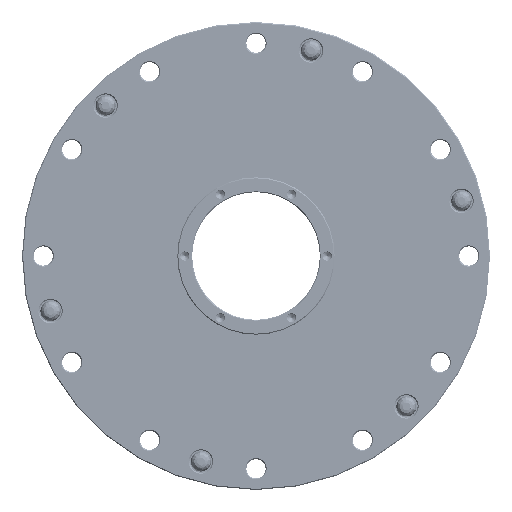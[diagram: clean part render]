
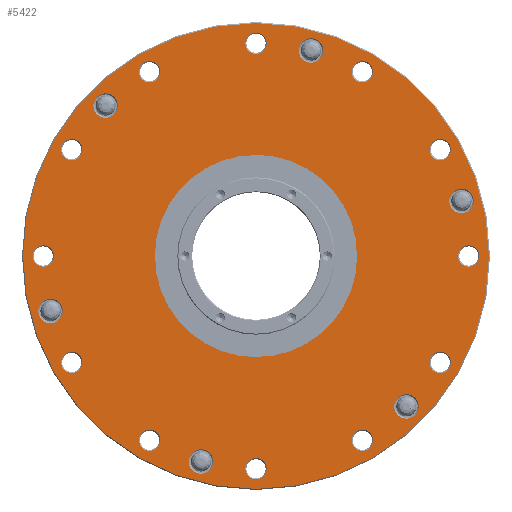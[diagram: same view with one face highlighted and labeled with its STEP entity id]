
A CAD part, left-side view. The second image highlights one B-rep face of the part: STEP entity #5422.
In plain terms, the highlighted planar face has unit normal (-1, 0, 0).
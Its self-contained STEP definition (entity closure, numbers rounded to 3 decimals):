
#5422=ADVANCED_FACE('',(#6850,#6851,#6852,#6853,#6854,#6855,#6856,#6857,
#6858,#6859,#6860,#6861,#6862,#6863,#6864,#6865,#6866,#6867,#6868,#6869),
#5825,.F.);
#5825=PLANE('',#17472);
#6850=FACE_BOUND('',#8612,.T.);
#6851=FACE_BOUND('',#8613,.T.);
#6852=FACE_BOUND('',#8614,.T.);
#6853=FACE_BOUND('',#8615,.T.);
#6854=FACE_BOUND('',#8616,.T.);
#6855=FACE_BOUND('',#8617,.T.);
#6856=FACE_BOUND('',#8618,.T.);
#6857=FACE_BOUND('',#8619,.T.);
#6858=FACE_BOUND('',#8620,.T.);
#6859=FACE_BOUND('',#8621,.T.);
#6860=FACE_BOUND('',#8622,.T.);
#6861=FACE_BOUND('',#8623,.T.);
#6862=FACE_BOUND('',#8624,.T.);
#6863=FACE_BOUND('',#8625,.T.);
#6864=FACE_BOUND('',#8626,.T.);
#6865=FACE_BOUND('',#8627,.T.);
#6866=FACE_BOUND('',#8628,.T.);
#6867=FACE_BOUND('',#8629,.T.);
#6868=FACE_BOUND('',#8630,.T.);
#6869=FACE_BOUND('',#8631,.T.);
#8612=EDGE_LOOP('',(#11875));
#8613=EDGE_LOOP('',(#11876));
#8614=EDGE_LOOP('',(#11877));
#8615=EDGE_LOOP('',(#11878));
#8616=EDGE_LOOP('',(#11879));
#8617=EDGE_LOOP('',(#11880));
#8618=EDGE_LOOP('',(#11881));
#8619=EDGE_LOOP('',(#11882));
#8620=EDGE_LOOP('',(#11883));
#8621=EDGE_LOOP('',(#11884));
#8622=EDGE_LOOP('',(#11885));
#8623=EDGE_LOOP('',(#11886));
#8624=EDGE_LOOP('',(#11887));
#8625=EDGE_LOOP('',(#11888));
#8626=EDGE_LOOP('',(#11889));
#8627=EDGE_LOOP('',(#11890));
#8628=EDGE_LOOP('',(#11891));
#8629=EDGE_LOOP('',(#11892));
#8630=EDGE_LOOP('',(#11893));
#8631=EDGE_LOOP('',(#11894));
#11875=ORIENTED_EDGE('',*,*,#15162,.T.);
#11876=ORIENTED_EDGE('',*,*,#15163,.T.);
#11877=ORIENTED_EDGE('',*,*,#15164,.T.);
#11878=ORIENTED_EDGE('',*,*,#15165,.T.);
#11879=ORIENTED_EDGE('',*,*,#15166,.T.);
#11880=ORIENTED_EDGE('',*,*,#15167,.T.);
#11881=ORIENTED_EDGE('',*,*,#15168,.T.);
#11882=ORIENTED_EDGE('',*,*,#15169,.T.);
#11883=ORIENTED_EDGE('',*,*,#15170,.T.);
#11884=ORIENTED_EDGE('',*,*,#15171,.T.);
#11885=ORIENTED_EDGE('',*,*,#15172,.T.);
#11886=ORIENTED_EDGE('',*,*,#15173,.T.);
#11887=ORIENTED_EDGE('',*,*,#15174,.T.);
#11888=ORIENTED_EDGE('',*,*,#15175,.T.);
#11889=ORIENTED_EDGE('',*,*,#15176,.T.);
#11890=ORIENTED_EDGE('',*,*,#15177,.T.);
#11891=ORIENTED_EDGE('',*,*,#15178,.T.);
#11892=ORIENTED_EDGE('',*,*,#15179,.T.);
#11893=ORIENTED_EDGE('',*,*,#15180,.F.);
#11894=ORIENTED_EDGE('',*,*,#15181,.T.);
#13495=VERTEX_POINT('',#176424);
#13496=VERTEX_POINT('',#176426);
#13497=VERTEX_POINT('',#176428);
#13498=VERTEX_POINT('',#176430);
#13499=VERTEX_POINT('',#176432);
#13500=VERTEX_POINT('',#176434);
#13501=VERTEX_POINT('',#176436);
#13502=VERTEX_POINT('',#176438);
#13503=VERTEX_POINT('',#176440);
#13504=VERTEX_POINT('',#176442);
#13505=VERTEX_POINT('',#176444);
#13506=VERTEX_POINT('',#176446);
#13507=VERTEX_POINT('',#176448);
#13508=VERTEX_POINT('',#176450);
#13509=VERTEX_POINT('',#176452);
#13510=VERTEX_POINT('',#176454);
#13511=VERTEX_POINT('',#176456);
#13512=VERTEX_POINT('',#176458);
#13513=VERTEX_POINT('',#176460);
#13514=VERTEX_POINT('',#176462);
#15162=EDGE_CURVE('',#13495,#13495,#16002,.T.);
#15163=EDGE_CURVE('',#13496,#13496,#16003,.T.);
#15164=EDGE_CURVE('',#13497,#13497,#16004,.T.);
#15165=EDGE_CURVE('',#13498,#13498,#16005,.T.);
#15166=EDGE_CURVE('',#13499,#13499,#16006,.T.);
#15167=EDGE_CURVE('',#13500,#13500,#16007,.T.);
#15168=EDGE_CURVE('',#13501,#13501,#16008,.T.);
#15169=EDGE_CURVE('',#13502,#13502,#16009,.T.);
#15170=EDGE_CURVE('',#13503,#13503,#16010,.T.);
#15171=EDGE_CURVE('',#13504,#13504,#16011,.T.);
#15172=EDGE_CURVE('',#13505,#13505,#16012,.T.);
#15173=EDGE_CURVE('',#13506,#13506,#16013,.T.);
#15174=EDGE_CURVE('',#13507,#13507,#16014,.T.);
#15175=EDGE_CURVE('',#13508,#13508,#16015,.T.);
#15176=EDGE_CURVE('',#13509,#13509,#16016,.T.);
#15177=EDGE_CURVE('',#13510,#13510,#16017,.T.);
#15178=EDGE_CURVE('',#13511,#13511,#16018,.T.);
#15179=EDGE_CURVE('',#13512,#13512,#16019,.T.);
#15180=EDGE_CURVE('',#13513,#13513,#16020,.T.);
#15181=EDGE_CURVE('',#13514,#13514,#16021,.T.);
#16002=CIRCLE('',#17452,5.75);
#16003=CIRCLE('',#17453,5.75);
#16004=CIRCLE('',#17454,5.75);
#16005=CIRCLE('',#17455,5.75);
#16006=CIRCLE('',#17456,5.75);
#16007=CIRCLE('',#17457,5.75);
#16008=CIRCLE('',#17458,5.);
#16009=CIRCLE('',#17459,5.);
#16010=CIRCLE('',#17460,5.);
#16011=CIRCLE('',#17461,5.);
#16012=CIRCLE('',#17462,5.);
#16013=CIRCLE('',#17463,5.);
#16014=CIRCLE('',#17464,5.);
#16015=CIRCLE('',#17465,5.);
#16016=CIRCLE('',#17466,5.);
#16017=CIRCLE('',#17467,5.);
#16018=CIRCLE('',#17468,5.);
#16019=CIRCLE('',#17469,5.);
#16020=CIRCLE('',#17470,47.5);
#16021=CIRCLE('',#17471,109.5);
#17452=AXIS2_PLACEMENT_3D('',#176423,#20658,#20659);
#17453=AXIS2_PLACEMENT_3D('',#176425,#20660,#20661);
#17454=AXIS2_PLACEMENT_3D('',#176427,#20662,#20663);
#17455=AXIS2_PLACEMENT_3D('',#176429,#20664,#20665);
#17456=AXIS2_PLACEMENT_3D('',#176431,#20666,#20667);
#17457=AXIS2_PLACEMENT_3D('',#176433,#20668,#20669);
#17458=AXIS2_PLACEMENT_3D('',#176435,#20670,#20671);
#17459=AXIS2_PLACEMENT_3D('',#176437,#20672,#20673);
#17460=AXIS2_PLACEMENT_3D('',#176439,#20674,#20675);
#17461=AXIS2_PLACEMENT_3D('',#176441,#20676,#20677);
#17462=AXIS2_PLACEMENT_3D('',#176443,#20678,#20679);
#17463=AXIS2_PLACEMENT_3D('',#176445,#20680,#20681);
#17464=AXIS2_PLACEMENT_3D('',#176447,#20682,#20683);
#17465=AXIS2_PLACEMENT_3D('',#176449,#20684,#20685);
#17466=AXIS2_PLACEMENT_3D('',#176451,#20686,#20687);
#17467=AXIS2_PLACEMENT_3D('',#176453,#20688,#20689);
#17468=AXIS2_PLACEMENT_3D('',#176455,#20690,#20691);
#17469=AXIS2_PLACEMENT_3D('',#176457,#20692,#20693);
#17470=AXIS2_PLACEMENT_3D('',#176459,#20694,#20695);
#17471=AXIS2_PLACEMENT_3D('',#176461,#20696,#20697);
#17472=AXIS2_PLACEMENT_3D('',#176463,#20698,#20699);
#20658=DIRECTION('',(1.,0.,0.));
#20659=DIRECTION('',(0.,0.,-1.));
#20660=DIRECTION('',(1.,0.,0.));
#20661=DIRECTION('',(0.,0.,-1.));
#20662=DIRECTION('',(1.,0.,0.));
#20663=DIRECTION('',(0.,0.,-1.));
#20664=DIRECTION('',(1.,0.,0.));
#20665=DIRECTION('',(0.,0.,-1.));
#20666=DIRECTION('',(1.,0.,0.));
#20667=DIRECTION('',(0.,0.,-1.));
#20668=DIRECTION('',(1.,0.,0.));
#20669=DIRECTION('',(0.,0.,-1.));
#20670=DIRECTION('',(1.,0.,0.));
#20671=DIRECTION('',(0.,0.,-1.));
#20672=DIRECTION('',(1.,0.,0.));
#20673=DIRECTION('',(0.,0.,-1.));
#20674=DIRECTION('',(1.,0.,0.));
#20675=DIRECTION('',(0.,0.,-1.));
#20676=DIRECTION('',(1.,0.,0.));
#20677=DIRECTION('',(0.,0.,-1.));
#20678=DIRECTION('',(1.,0.,0.));
#20679=DIRECTION('',(0.,0.,-1.));
#20680=DIRECTION('',(1.,0.,0.));
#20681=DIRECTION('',(0.,0.,-1.));
#20682=DIRECTION('',(1.,0.,0.));
#20683=DIRECTION('',(0.,0.,-1.));
#20684=DIRECTION('',(1.,0.,0.));
#20685=DIRECTION('',(0.,0.,-1.));
#20686=DIRECTION('',(1.,0.,0.));
#20687=DIRECTION('',(0.,0.,-1.));
#20688=DIRECTION('',(1.,0.,0.));
#20689=DIRECTION('',(0.,0.,-1.));
#20690=DIRECTION('',(1.,0.,0.));
#20691=DIRECTION('',(0.,0.,-1.));
#20692=DIRECTION('',(1.,0.,0.));
#20693=DIRECTION('',(0.,0.,-1.));
#20694=DIRECTION('',(-1.,0.,0.));
#20695=DIRECTION('',(0.,0.,1.));
#20696=DIRECTION('',(-1.,0.,0.));
#20697=DIRECTION('',(0.,0.,1.));
#20698=DIRECTION('',(1.,0.,0.));
#20699=DIRECTION('',(0.,0.,-1.));
#176423=CARTESIAN_POINT('',(-47.,25.882,-96.593));
#176424=CARTESIAN_POINT('',(-47.,25.882,-102.343));
#176425=CARTESIAN_POINT('',(-47.,-70.711,-70.711));
#176426=CARTESIAN_POINT('',(-47.,-70.711,-76.461));
#176427=CARTESIAN_POINT('',(-47.,-96.593,25.882));
#176428=CARTESIAN_POINT('',(-47.,-96.593,20.132));
#176429=CARTESIAN_POINT('',(-47.,-25.882,96.593));
#176430=CARTESIAN_POINT('',(-47.,-25.882,90.843));
#176431=CARTESIAN_POINT('',(-47.,70.711,70.711));
#176432=CARTESIAN_POINT('',(-47.,70.711,64.961));
#176433=CARTESIAN_POINT('',(-47.,96.593,-25.882));
#176434=CARTESIAN_POINT('',(-47.,96.593,-31.632));
#176435=CARTESIAN_POINT('',(-47.,86.603,-50.));
#176436=CARTESIAN_POINT('',(-47.,86.603,-55.));
#176437=CARTESIAN_POINT('',(-47.,50.,-86.603));
#176438=CARTESIAN_POINT('',(-47.,50.,-91.603));
#176439=CARTESIAN_POINT('',(-47.,0.,-100.));
#176440=CARTESIAN_POINT('',(-47.,0.,-105.));
#176441=CARTESIAN_POINT('',(-47.,-50.,-86.603));
#176442=CARTESIAN_POINT('',(-47.,-50.,-91.603));
#176443=CARTESIAN_POINT('',(-47.,-86.603,-50.));
#176444=CARTESIAN_POINT('',(-47.,-86.603,-55.));
#176445=CARTESIAN_POINT('',(-47.,-100.,0.));
#176446=CARTESIAN_POINT('',(-47.,-100.,-5.));
#176447=CARTESIAN_POINT('',(-47.,-86.603,50.));
#176448=CARTESIAN_POINT('',(-47.,-86.603,45.));
#176449=CARTESIAN_POINT('',(-47.,-50.,86.603));
#176450=CARTESIAN_POINT('',(-47.,-50.,81.603));
#176451=CARTESIAN_POINT('',(-47.,0.,100.));
#176452=CARTESIAN_POINT('',(-47.,0.,95.));
#176453=CARTESIAN_POINT('',(-47.,50.,86.603));
#176454=CARTESIAN_POINT('',(-47.,50.,81.603));
#176455=CARTESIAN_POINT('',(-47.,86.603,50.));
#176456=CARTESIAN_POINT('',(-47.,86.603,45.));
#176457=CARTESIAN_POINT('',(-47.,100.,0.));
#176458=CARTESIAN_POINT('',(-47.,100.,-5.));
#176459=CARTESIAN_POINT('',(-47.,0.,0.));
#176460=CARTESIAN_POINT('',(-47.,0.,47.5));
#176461=CARTESIAN_POINT('',(-47.,0.,0.));
#176462=CARTESIAN_POINT('',(-47.,0.,109.5));
#176463=CARTESIAN_POINT('',(-47.,109.5,0.));
